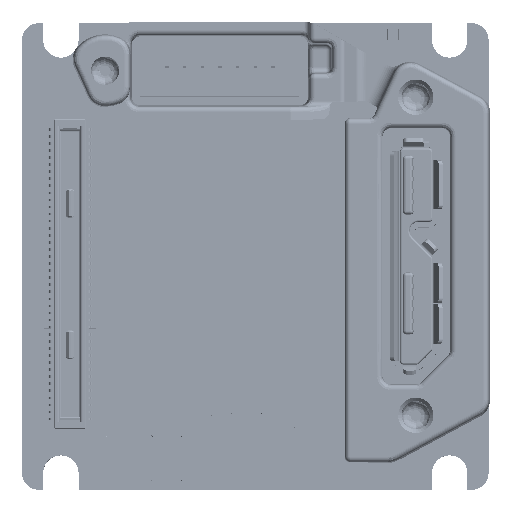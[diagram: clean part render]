
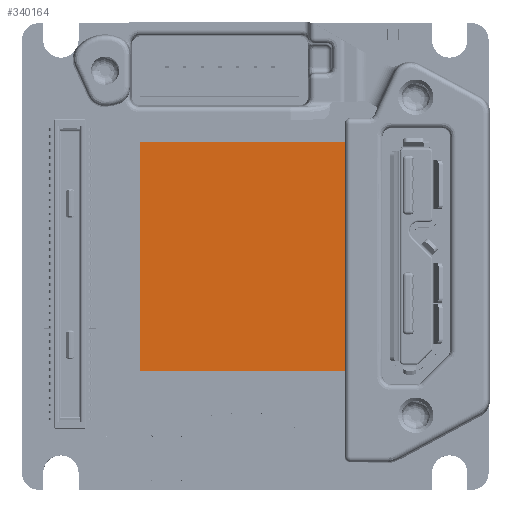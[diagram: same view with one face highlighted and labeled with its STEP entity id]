
A CAD part, top view. The second image highlights one B-rep face of the part: STEP entity #340164.
In plain terms, the highlighted planar face has unit normal (0, 0, 1).
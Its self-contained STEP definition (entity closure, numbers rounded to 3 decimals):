
#4912 = LINE ( 'NONE', #297507, #357099 ) ;
#55671 = CARTESIAN_POINT ( 'NONE',  ( -6.5, -6.5, 6.167 ) ) ;
#93291 = CARTESIAN_POINT ( 'NONE',  ( -6.5, -6.5, 6.167 ) ) ;
#125601 = ORIENTED_EDGE ( 'NONE', *, *, #311415, .F. ) ;
#142666 = LINE ( 'NONE', #93291, #391476 ) ;
#151996 = DIRECTION ( 'NONE',  ( 1., 0., 0. ) ) ;
#163191 = LINE ( 'NONE', #395042, #536192 ) ;
#192047 = EDGE_CURVE ( 'NONE', #563268, #583427, #4912, .T. ) ;
#206434 = DIRECTION ( 'NONE',  ( 0., -1., 0. ) ) ;
#208570 = LINE ( 'NONE', #614928, #275214 ) ;
#241115 = CARTESIAN_POINT ( 'NONE',  ( 6.5, 6.5, 6.167 ) ) ;
#275214 = VECTOR ( 'NONE', #550344, 1000. ) ;
#278348 = DIRECTION ( 'NONE',  ( 0., 0., -1. ) ) ;
#297507 = CARTESIAN_POINT ( 'NONE',  ( 6.5, 6.5, 6.167 ) ) ;
#301224 = DIRECTION ( 'NONE',  ( 0., -1., 0. ) ) ;
#309302 = ORIENTED_EDGE ( 'NONE', *, *, #192047, .F. ) ;
#311415 = EDGE_CURVE ( 'NONE', #583427, #596408, #208570, .T. ) ;
#324925 = CARTESIAN_POINT ( 'NONE',  ( 6.5, -6.5, 6.167 ) ) ;
#338653 = CARTESIAN_POINT ( 'NONE',  ( -6.5, 6.5, 6.167 ) ) ;
#340164 = ADVANCED_FACE ( 'NONE', ( #612660 ), #677311, .F. ) ;
#357099 = VECTOR ( 'NONE', #301224, 1000. ) ;
#378284 = DIRECTION ( 'NONE',  ( 0., 1., 0. ) ) ;
#391476 = VECTOR ( 'NONE', #378284, 1000. ) ;
#395042 = CARTESIAN_POINT ( 'NONE',  ( -6.5, 6.5, 6.167 ) ) ;
#477841 = EDGE_CURVE ( 'NONE', #596408, #510812, #142666, .T. ) ;
#510812 = VERTEX_POINT ( 'NONE', #338653 ) ;
#536192 = VECTOR ( 'NONE', #151996, 1000. ) ;
#550344 = DIRECTION ( 'NONE',  ( -1., 0., 0. ) ) ;
#554985 = AXIS2_PLACEMENT_3D ( 'NONE', #737961, #278348, #206434 ) ;
#563268 = VERTEX_POINT ( 'NONE', #241115 ) ;
#583427 = VERTEX_POINT ( 'NONE', #324925 ) ;
#585733 = ORIENTED_EDGE ( 'NONE', *, *, #621486, .F. ) ;
#596408 = VERTEX_POINT ( 'NONE', #55671 ) ;
#612660 = FACE_OUTER_BOUND ( 'NONE', #675332, .T. ) ;
#614928 = CARTESIAN_POINT ( 'NONE',  ( 6.5, -6.5, 6.167 ) ) ;
#621486 = EDGE_CURVE ( 'NONE', #510812, #563268, #163191, .T. ) ;
#675332 = EDGE_LOOP ( 'NONE', ( #125601, #309302, #585733, #747978 ) ) ;
#677311 = PLANE ( 'NONE',  #554985 ) ;
#737961 = CARTESIAN_POINT ( 'NONE',  ( 0., 0., 6.167 ) ) ;
#747978 = ORIENTED_EDGE ( 'NONE', *, *, #477841, .F. ) ;
